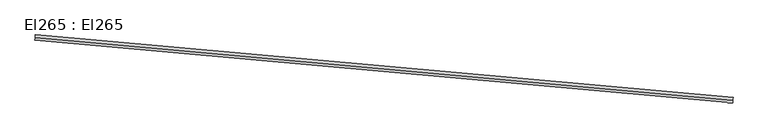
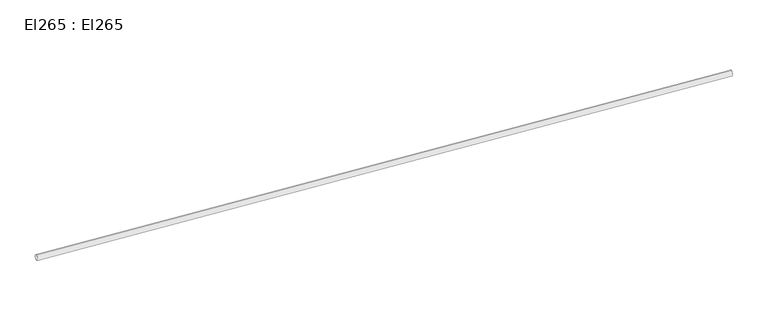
"""IFC4 building model written with IfcOpenShell, lengths in millimetres: cable carrier segment geometry, El265 : El265."""

from ifc_helpers import new_model, si_unit, point, frame, frame_2d, origin, place, context, project, spatial, circle_curve, trimmed, segment, composite_curve, outline, extrude, source, transform, mapped, element, save


def el265_el265_57d69ab9(model_context):
    return source(origin(), model_context, "Body", "SweptSolid", [
        extrude(outline(composite_curve([segment(trimmed(circle_curve(frame_2d((0.0, -9.5)), 9.5), [point((0.0, -19.0))], [point((0.0, 0.0))], False, "CARTESIAN"), True, "CONTINUOUS"), segment(trimmed(circle_curve(frame_2d((0.0, -9.5)), 9.5), [point((0.0, 0.0))], [point((0.0, -19.0))], False, "CARTESIAN"), True, "CONTINUOUS")], self_intersect=False)), frame((7649.9935642, 25105.4412319, 2959.5), z_axis=(-0.9959647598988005, 0.08974517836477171, 0.0), x_axis=(-0.08974517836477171, -0.9959647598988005, 0.0)), (0.0, 0.0, 1.0), 2388.07),
    ])


if __name__ == "__main__":
    model = new_model("IFC4")
    model_context = context("Model", 3, world=origin())
    ifc_project = project(units=[si_unit("LENGTHUNIT", "METRE", prefix="MILLI")], contexts=[model_context])
    site = spatial("IfcSite", under=ifc_project)
    building = spatial("IfcBuilding", under=site)
    placement = place(None, origin())
    el265_el265_shape = el265_el265_57d69ab9(model_context)
    element("IfcCableCarrierSegment", 1, ObjectType="El265 : El265", at=placement, inside=building, context=model_context, shape_type="MappedRepresentation", body=[
        mapped(el265_el265_shape, transform((0.0, 0.0, 0.0), x_axis=(1.0, 0.0, 0.0), y_axis=(0.0, 1.0, 0.0), z_axis=(0.0, 0.0, 1.0))),
    ])
    save(model, "model.ifc")
